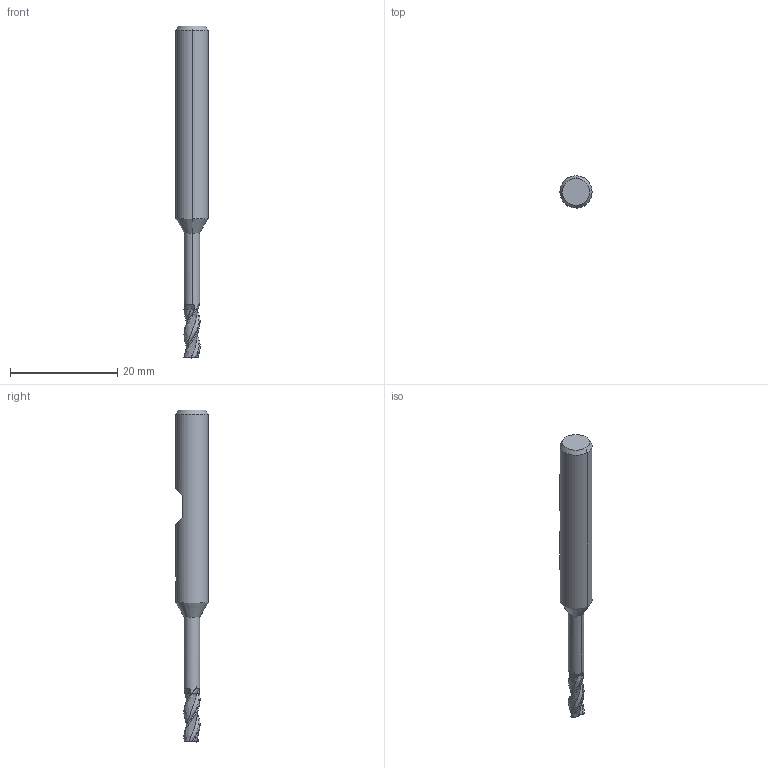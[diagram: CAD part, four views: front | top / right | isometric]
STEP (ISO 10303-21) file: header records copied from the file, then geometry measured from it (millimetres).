
FILE_DESCRIPTION(('no description'),'unknown implementation level');
FILE_NAME('solidVNDd1cgOgcmb2KT15bFKo0Y502o_1.STP',' ',('CIMSOURCE GmbH'),('CADClick - KiM GmbH - www.kimweb.de'),'unknown preprocess','ACIS','unknown authorization');
FILE_SCHEMA(('automotive_design'));
Length unit declared in the file: millimetre
Products named in the file (2): NOCUT; CUT
Bounding box: 6 x 6 x 62 mm (x, y, z)
Volume: 1164.9 mm3; surface area: 1047.2 mm2
Topology: 2 solids, 2 shells, 112 faces, 306 edges, 197 vertices
Faces by surface type: bspline 36, plane 29, cone 19, cylinder 16, revolution 12
Entity records: 16050 total; most frequent: CARTESIAN_POINT 10149, STYLED_ITEM 617, PRESENTATION_STYLE_ASSIGNMENT 617, COLOUR_RGB 617, ORIENTED_EDGE 612, DIRECTION 355, EDGE_CURVE 306, CURVE_STYLE 306
